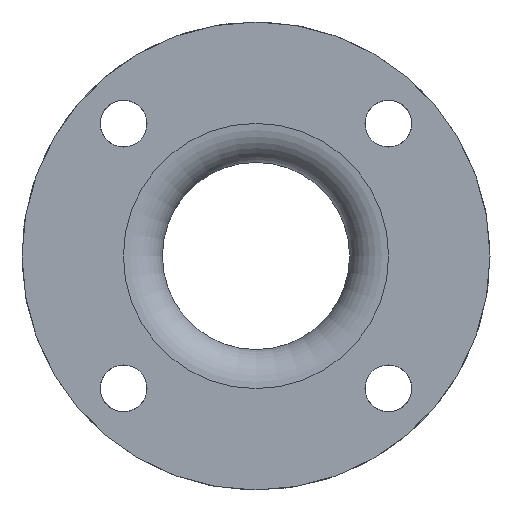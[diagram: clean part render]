
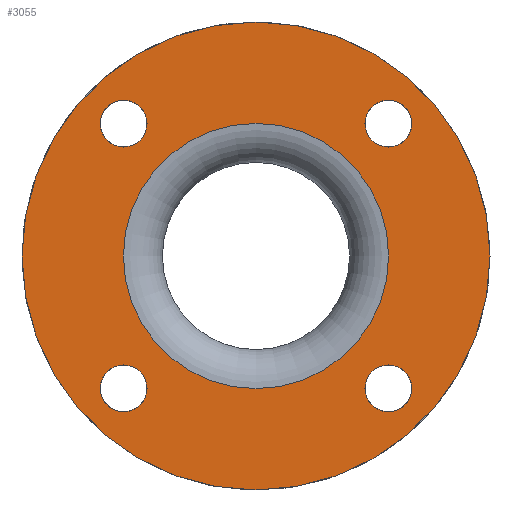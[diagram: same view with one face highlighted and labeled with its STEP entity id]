
A CAD part, front view. The second image highlights one B-rep face of the part: STEP entity #3055.
In plain terms, the highlighted planar face has unit normal (0, -1, 0).
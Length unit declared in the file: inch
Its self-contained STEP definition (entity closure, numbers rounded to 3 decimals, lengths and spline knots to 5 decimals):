
#112=FACE_BOUND('',#561,.T.);
#113=FACE_BOUND('',#562,.T.);
#114=FACE_BOUND('',#563,.T.);
#115=FACE_BOUND('',#564,.T.);
#116=FACE_BOUND('',#565,.T.);
#169=PLANE('',#3452);
#330=FACE_OUTER_BOUND('',#560,.T.);
#560=EDGE_LOOP('',(#2624));
#561=EDGE_LOOP('',(#2625));
#562=EDGE_LOOP('',(#2626));
#563=EDGE_LOOP('',(#2627));
#564=EDGE_LOOP('',(#2628));
#565=EDGE_LOOP('',(#2629));
#1093=CIRCLE('',#3409,0.375);
#1095=CIRCLE('',#3412,0.375);
#1097=CIRCLE('',#3415,0.375);
#1099=CIRCLE('',#3418,0.375);
#1118=CIRCLE('',#3451,3.75);
#1119=CIRCLE('',#3453,2.125);
#1381=VERTEX_POINT('',#5407);
#1383=VERTEX_POINT('',#5412);
#1385=VERTEX_POINT('',#5417);
#1387=VERTEX_POINT('',#5422);
#1406=VERTEX_POINT('',#5474);
#1407=VERTEX_POINT('',#5477);
#1789=EDGE_CURVE('',#1381,#1381,#1093,.T.);
#1791=EDGE_CURVE('',#1383,#1383,#1095,.T.);
#1793=EDGE_CURVE('',#1385,#1385,#1097,.T.);
#1795=EDGE_CURVE('',#1387,#1387,#1099,.T.);
#1814=EDGE_CURVE('',#1406,#1406,#1118,.T.);
#1815=EDGE_CURVE('',#1407,#1407,#1119,.T.);
#2624=ORIENTED_EDGE('',*,*,#1814,.T.);
#2625=ORIENTED_EDGE('',*,*,#1789,.T.);
#2626=ORIENTED_EDGE('',*,*,#1791,.T.);
#2627=ORIENTED_EDGE('',*,*,#1793,.T.);
#2628=ORIENTED_EDGE('',*,*,#1795,.T.);
#2629=ORIENTED_EDGE('',*,*,#1815,.F.);
#3055=ADVANCED_FACE('',(#330,#112,#113,#114,#115,#116),#169,.T.);
#3409=AXIS2_PLACEMENT_3D('',#5408,#4313,#4314);
#3412=AXIS2_PLACEMENT_3D('',#5413,#4319,#4320);
#3415=AXIS2_PLACEMENT_3D('',#5418,#4325,#4326);
#3418=AXIS2_PLACEMENT_3D('',#5423,#4331,#4332);
#3451=AXIS2_PLACEMENT_3D('',#5475,#4397,#4398);
#3452=AXIS2_PLACEMENT_3D('',#5476,#4399,#4400);
#3453=AXIS2_PLACEMENT_3D('',#5478,#4401,#4402);
#4313=DIRECTION('center_axis',(0.,1.,0.));
#4314=DIRECTION('ref_axis',(1.,0.,0.));
#4319=DIRECTION('center_axis',(0.,1.,0.));
#4320=DIRECTION('ref_axis',(0.,0.,
-1.));
#4325=DIRECTION('center_axis',(0.,1.,0.));
#4326=DIRECTION('ref_axis',(-1.,0.,0.));
#4331=DIRECTION('center_axis',(0.,1.,0.));
#4332=DIRECTION('ref_axis',(0.,0.,
1.));
#4397=DIRECTION('center_axis',(0.,-1.,0.));
#4398=DIRECTION('ref_axis',(1.,0.,0.));
#4399=DIRECTION('center_axis',(0.,-1.,0.));
#4400=DIRECTION('ref_axis',(0.,0.,-1.));
#4401=DIRECTION('center_axis',(0.,-1.,0.));
#4402=DIRECTION('ref_axis',(1.,0.,0.));
#5407=CARTESIAN_POINT('',(1.74632,-9.,-2.12132));
#5408=CARTESIAN_POINT('Origin',(2.12132,-9.,-2.12132));
#5412=CARTESIAN_POINT('',(-2.12132,-9.,-1.74632));
#5413=CARTESIAN_POINT('Origin',(-2.12132,-9.,-2.12132));
#5417=CARTESIAN_POINT('',(-1.74632,-9.,2.12132));
#5418=CARTESIAN_POINT('Origin',(-2.12132,-9.,2.12132));
#5422=CARTESIAN_POINT('',(2.12132,-9.,1.74632));
#5423=CARTESIAN_POINT('Origin',(2.12132,-9.,2.12132));
#5474=CARTESIAN_POINT('',(3.75,-9.,0.));
#5475=CARTESIAN_POINT('Origin',(0.,-9.,0.));
#5476=CARTESIAN_POINT('Origin',(2.9375,-9.,0.));
#5477=CARTESIAN_POINT('',(2.125,-9.,0.));
#5478=CARTESIAN_POINT('Origin',(0.,-9.,0.));
